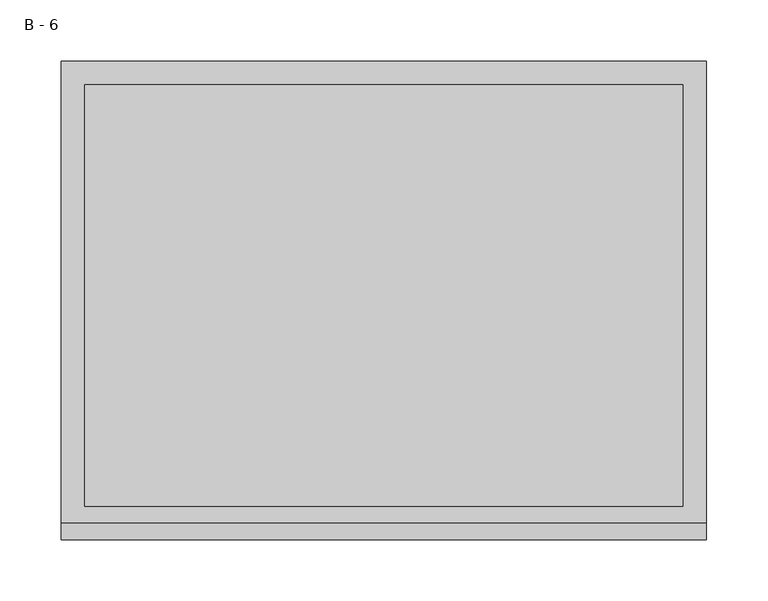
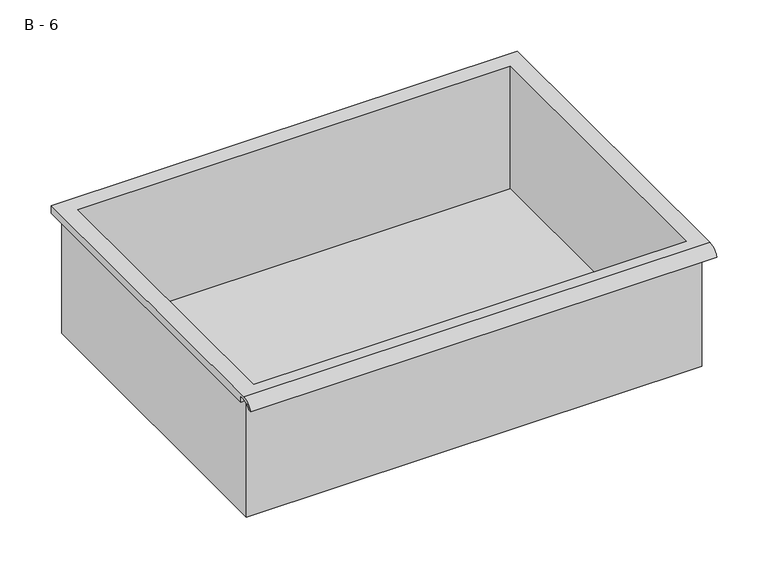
"""IFC4 building model written with IfcOpenShell, lengths in millimetres: furniture geometry, HermanMiller_CoStruc_CO207_Drawer : B - 6."""

from ifc_helpers import new_model, si_unit, frame, origin, place, context, project, spatial, polyline, circle_curve, source, transform, mapped, element, save
from ifc_brep_helpers import plane_surface, cylinder_surface, revolved_surface, advanced_brep


def b_6_f31ca194(model_context):
    return source(origin(), model_context, "Body", "AdvancedBrep", [
        advanced_brep(
        [(-257.1076517, -176.2125, 777.875), (257.2423483, -176.2125, 777.875), (257.2423483, -176.2125, 917.575), (263.5923483, -176.2125, 917.575), (263.5923483, -176.2125, 923.8821341), (-263.4576517, -176.2125, 923.8821341), (-263.4576517, -176.2125, 917.575), (-257.1076517, -176.2125, 917.575), (257.2423483, 185.7375, 777.875), (-257.1076517, 185.7375, 777.875), (-257.1076517, 185.7375, 917.575), (257.2423483, 185.7375, 917.575), (263.5923483, -181.6070544, 927.1), (263.5923483, 195.2625, 927.1), (-263.4576517, 195.2625, 927.1), (-263.4576517, -181.6070544, 927.1), (244.5423483, -168.275, 927.1), (-244.4076517, -168.275, 927.1), (-244.4076517, 176.2125, 927.1), (244.5423483, 176.2125, 927.1), (263.5923483, -195.2625, 917.575), (263.5923483, -191.8280601, 917.575), (263.5923483, -180.4714815, 923.8821341), (263.5923483, 195.2625, 917.575), (-263.4576517, 195.2625, 917.575), (-263.4576517, -180.4714815, 923.8821341), (-263.4576517, -191.8280601, 917.575), (-263.4576517, -195.2625, 917.575), (-244.4076517, -168.275, 780.9011719), (244.5423483, -168.275, 780.9011719), (244.5423483, 176.2125, 780.9011719), (-244.4076517, 176.2125, 780.9011719)],
        [
            (0, 1),
            (1, 2),
            (2, 3),
            (3, 4),
            (4, 5),
            (5, 6),
            (6, 7),
            (7, 0),
            (8, 9),
            (9, 10),
            (10, 11),
            (11, 8),
            (0, 9),
            (8, 1),
            (11, 2),
            (12, 13),
            (13, 14),
            (14, 15),
            (15, 12),
            (16, 17),
            (17, 18),
            (18, 19),
            (19, 16),
            (7, 10),
            (12, 20, circle_curve(frame((263.5923483, -181.6070544, 912.5489859), z_axis=(1.0, 0.0, 0.0), x_axis=(0.0, 1.0, 0.0)), 14.5510141)),
            (20, 21),
            (21, 22, circle_curve(frame((263.5923483, -181.6070544, 912.5489859), z_axis=(-1.0, 0.0, 0.0), x_axis=(0.0, 1.0, 0.0)), 11.3898979)),
            (22, 4),
            (3, 23),
            (23, 13),
            (14, 24),
            (24, 6),
            (5, 25),
            (25, 26, circle_curve(frame((-263.4576517, -181.6070544, 912.5489859), z_axis=(1.0, 0.0, 0.0), x_axis=(0.0, 1.0, 0.0)), 11.3898979)),
            (26, 27),
            (27, 15, circle_curve(frame((-263.4576517, -181.6070544, 912.5489859), z_axis=(-1.0, 0.0, 0.0), x_axis=(0.0, 1.0, 0.0)), 14.5510141)),
            (27, 20),
            (26, 21),
            (25, 22),
            (24, 23),
            (28, 29),
            (29, 30),
            (30, 31),
            (31, 28),
            (28, 17),
            (16, 29),
            (19, 30),
            (18, 31),
        ],
        [
            plane_surface(frame((257.2423483, -176.2125, 777.875), z_axis=(0.0, -1.0, 0.0), x_axis=(1.0, 0.0, 0.0))),
            plane_surface(frame((257.2423483, 185.7375, 777.875), z_axis=(0.0, 1.0, 0.0), x_axis=(-1.0, 0.0, 0.0))),
            plane_surface(frame((-257.1076517, -176.2125, 777.875), z_axis=(0.0, 0.0, -1.0), x_axis=(0.0, 1.0, 0.0))),
            plane_surface(frame((257.2423483, -176.2125, 777.875), z_axis=(1.0, 0.0, 0.0), x_axis=(0.0, 1.0, 0.0))),
            plane_surface(frame((257.2423483, -176.2125, 927.1), z_axis=(0.0, 0.0, 1.0), x_axis=(0.0, 1.0, 0.0))),
            plane_surface(frame((-257.1076517, -176.2125, 927.1), z_axis=(-1.0, 0.0, 0.0), x_axis=(0.0, 1.0, 0.0))),
            plane_surface(frame((263.5923483, 195.2625, 927.1), z_axis=(1.0, 0.0, 0.0), x_axis=(0.0, -1.0, 0.0))),
            plane_surface(frame((-263.4576517, 195.2625, 927.1), z_axis=(-1.0, 0.0, 0.0), x_axis=(0.0, 1.0, 0.0))),
            cylinder_surface(frame((-263.4576517, -181.6070544, 912.5489859), z_axis=(1.0, 0.0, 0.0), x_axis=(0.0, 1.0, 0.0)), 14.5510141),
            plane_surface(frame((263.5923483, -195.2625, 917.575), z_axis=(0.0, -7.212409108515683e-12, -1.0), x_axis=(-1.0, 0.0, 0.0))),
            revolved_surface(polyline([(-263.4576517, -170.21715650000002, 912.5489859), (263.59234829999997, -170.21715650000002, 912.5489859)]), (-263.4576517, -181.6070544, 912.5489859), (-1.0, 0.0, 0.0)),
            plane_surface(frame((263.5923483, -180.4714815, 923.8821341), z_axis=(0.0, -1.7893192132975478e-11, -1.0), x_axis=(-1.0, 0.0, 0.0))),
            plane_surface(frame((263.5923483, -176.2125, 917.575), z_axis=(0.0, 0.0, -1.0), x_axis=(-1.0, 0.0, 0.0))),
            plane_surface(frame((263.5923483, 195.2625, 917.575), z_axis=(0.0, 1.0, 0.0), x_axis=(-1.0, 0.0, 0.0))),
            plane_surface(frame((244.5423483, -168.275, 780.9011719), z_axis=(0.0, 0.0, 1.0), x_axis=(-1.0, 0.0, 0.0))),
            plane_surface(frame((-244.4076517, -168.275, 927.1), z_axis=(0.0, 1.0, 0.0), x_axis=(0.0, 0.0, -1.0))),
            plane_surface(frame((244.5423483, -168.275, 927.1), z_axis=(-1.0, 0.0, 0.0), x_axis=(0.0, 0.0, -1.0))),
            plane_surface(frame((244.5423483, 176.2125, 927.1), z_axis=(0.0, -1.0, 0.0), x_axis=(0.0, 0.0, -1.0))),
            plane_surface(frame((-244.4076517, 176.2125, 927.1), z_axis=(1.0, 0.0, 0.0), x_axis=(0.0, 0.0, -1.0))),
        ],
        [
            (0, [[1, 2, 3, 4, 5, 6, 7, 8]]),
            (1, [[9, 10, 11, 12]]),
            (2, [[-1, 13, -9, 14]]),
            (3, [[-14, -12, 15, -2]]),
            (4, [[16, 17, 18, 19], [20, 21, 22, 23]]),
            (5, [[-13, -8, 24, -10]]),
            (6, [[-16, 25, 26, 27, 28, -4, 29, 30]]),
            (7, [[31, 32, -6, 33, 34, 35, 36, -18]]),
            (8, [[-25, -19, -36, 37]]),
            (9, [[-26, -37, -35, 38]]),
            (10, [[-27, -38, -34, 39]]),
            (11, [[-28, -39, -33, -5]]),
            (12, [[-29, -3, -15, -11, -24, -7, -32, 40]]),
            (13, [[-30, -40, -31, -17]]),
            (14, [[41, 42, 43, 44]]),
            (15, [[-41, 45, -20, 46]]),
            (16, [[-42, -46, -23, 47]]),
            (17, [[-43, -47, -22, 48]]),
            (18, [[-44, -48, -21, -45]]),
        ],
    ),
    ])


if __name__ == "__main__":
    model = new_model("IFC4")
    model_context = context("Model", 3, world=origin())
    ifc_project = project(units=[si_unit("LENGTHUNIT", "METRE", prefix="MILLI")], contexts=[model_context])
    site = spatial("IfcSite", under=ifc_project)
    building = spatial("IfcBuilding", under=site)
    placement = place(None, origin())
    b_6_shape = b_6_f31ca194(model_context)
    element("IfcFurniture", 1, ObjectType="HermanMiller_CoStruc_CO207_Drawer : B - 6", at=placement, inside=building, context=model_context, shape_type="MappedRepresentation", body=[
        mapped(b_6_shape, transform((0.0, 0.0, 0.0), x_axis=(1.0, 0.0, 0.0), y_axis=(0.0, 1.0, 0.0), z_axis=(0.0, 0.0, 1.0))),
    ])
    save(model, "model.ifc")
